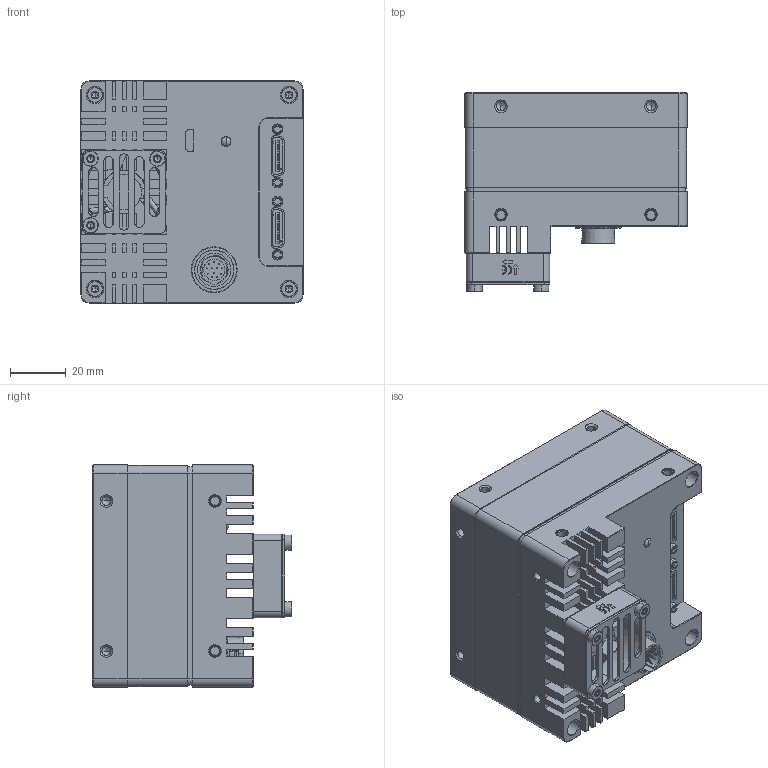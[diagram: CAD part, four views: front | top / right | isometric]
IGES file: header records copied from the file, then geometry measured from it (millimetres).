
Start section:  PTC IGES file: 0-dh3-3364-0000_sw0001.igs
Global section: file name: 0-dh3-3364-0000_sw0001.igs; native system: Creo Parametric by PTC Inc.; preprocessor: 2020184; author: 303992; organization: Unknown; date: 20231130.190215; units: millimetre
Bounding box: 80 x 71.64 x 80 mm (x, y, z)
Volume: 278620.7 mm3; surface area: 55356.2 mm2
Topology: 1 solids, 10 shells, 2026 faces, 5481 edges, 3697 vertices
Faces by surface type: bspline 1105, revolution 921
